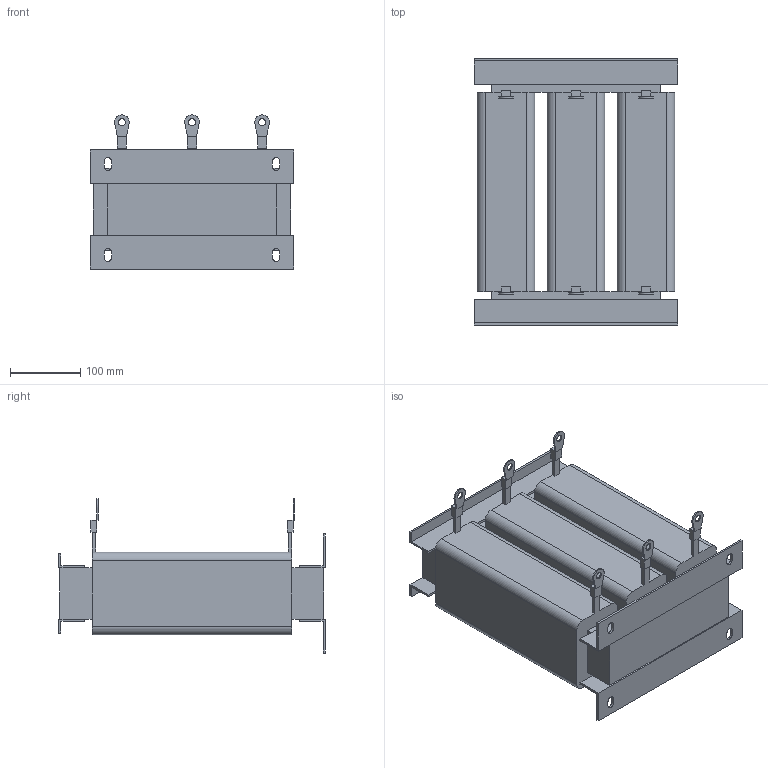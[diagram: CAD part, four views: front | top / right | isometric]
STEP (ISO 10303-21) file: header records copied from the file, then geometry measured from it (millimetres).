
FILE_DESCRIPTION(/* description */ (''),/* implementation_level */ '2;1');
FILE_NAME(/* name */ 'ACO-0098-T6-4.stp',/* time_stamp */ '2025-01-23T16:15:16+04:00',/* author */ ('Александр (огранич)'),/* organization */ (''),/* preprocessor_version */ 'ST-DEVELOPER v19.2',/* originating_system */ 'Autodesk Inventor 2024',/* authorisation */ '');
FILE_SCHEMA (('AUTOMOTIVE_DESIGN { 1 0 10303 214 3 1 1 }'));
Length unit declared in the file: millimetre
Products named in the file (1): ACO-0015-T4-4
Bounding box: 290 x 380 x 219.96 mm (x, y, z)
Volume: 10039666.9 mm3; surface area: 564716.4 mm2
Topology: 7 solids, 7 shells, 190 faces, 498 edges, 324 vertices
Faces by surface type: plane 158, cylinder 32
Full cylindrical faces by diameter (mm): 10 x6
Entity records: 5839 total; most frequent: CARTESIAN_POINT 1013, ORIENTED_EDGE 996, DIRECTION 944, EDGE_CURVE 498, LINE 434, VECTOR 434, VERTEX_POINT 324, AXIS2_PLACEMENT_3D 255
